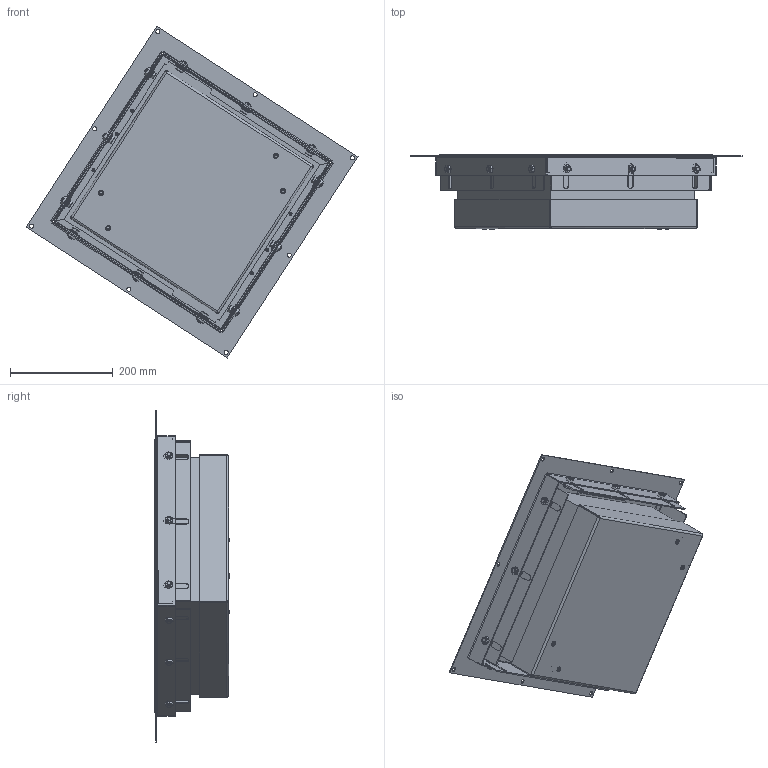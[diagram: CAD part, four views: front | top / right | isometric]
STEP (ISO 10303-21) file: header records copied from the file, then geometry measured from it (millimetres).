
FILE_DESCRIPTION (( 'STEP AP214' ), '1' );
FILE_NAME ('MS-IW-300_123997_120716_123996_120724.STEP', '2019-02-13T07:59:50', ( '' ), ( '' ), 'SwSTEP 2.0', 'SolidWorks 2018', '' );
FILE_SCHEMA (( 'AUTOMOTIVE_DESIGN' ));
Length unit declared in the file: millimetre
Products named in the file (1): MS-IW-300_123997_120716_123996_120724
Bounding box: 647.39 x 147.5 x 647.39 mm (x, y, z)
Volume: 11626632.6 mm3; surface area: 1359540.7 mm2
Topology: 1 solids, 19 shells, 1800 faces, 4464 edges, 2680 vertices
Faces by surface type: cylinder 680, plane 673, bspline 208, cone 128, torus 101, sphere 10
Entity records: 67133 total; most frequent: CARTESIAN_POINT 25684, ORIENTED_EDGE 8736, DIRECTION 8329, EDGE_CURVE 4368, AXIS2_PLACEMENT_3D 3180, VERTEX_POINT 2680, EDGE_LOOP 2008, VECTOR 1969
